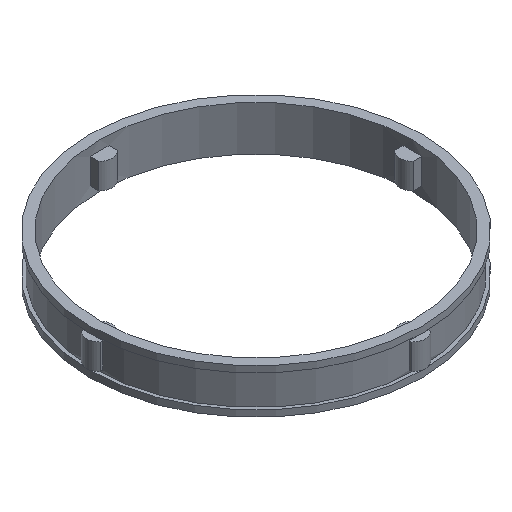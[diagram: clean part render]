
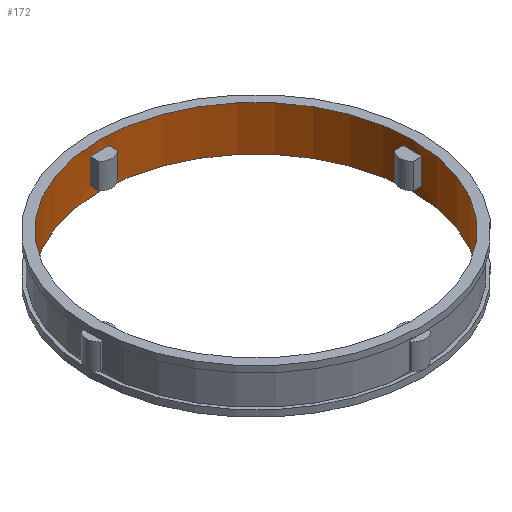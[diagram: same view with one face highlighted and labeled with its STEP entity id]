
A CAD part, isometric view. The second image highlights one B-rep face of the part: STEP entity #172.
In plain terms, the highlighted cylindrical face has radius 24.5 mm (diameter 49 mm), a full revolution.
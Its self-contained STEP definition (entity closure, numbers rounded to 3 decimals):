
#172=ADVANCED_FACE('',(#365,#366,#367,#368,#369,#370),#220,.F.);
#220=CYLINDRICAL_SURFACE('',#893,24.5);
#239=LINE('',#1247,#303);
#240=LINE('',#1251,#304);
#241=LINE('',#1255,#305);
#242=LINE('',#1259,#306);
#243=LINE('',#1263,#307);
#244=LINE('',#1267,#308);
#245=LINE('',#1268,#309);
#246=LINE('',#1273,#310);
#303=VECTOR('',#998,1.);
#304=VECTOR('',#1001,1.);
#305=VECTOR('',#1004,1.);
#306=VECTOR('',#1007,1.);
#307=VECTOR('',#1010,1.);
#308=VECTOR('',#1013,1.);
#309=VECTOR('',#1014,1.);
#310=VECTOR('',#1017,1.);
#365=FACE_BOUND('',#389,.T.);
#366=FACE_BOUND('',#390,.T.);
#367=FACE_BOUND('',#391,.T.);
#368=FACE_BOUND('',#392,.T.);
#369=FACE_BOUND('',#393,.T.);
#370=FACE_BOUND('',#394,.T.);
#389=EDGE_LOOP('',(#465));
#390=EDGE_LOOP('',(#466));
#391=EDGE_LOOP('',(#467,#468,#469,#470));
#392=EDGE_LOOP('',(#471,#472,#473,#474));
#393=EDGE_LOOP('',(#475,#476,#477,#478));
#394=EDGE_LOOP('',(#479,#480,#481,#482));
#465=ORIENTED_EDGE('',*,*,#745,.F.);
#466=ORIENTED_EDGE('',*,*,#746,.T.);
#467=ORIENTED_EDGE('',*,*,#747,.F.);
#468=ORIENTED_EDGE('',*,*,#748,.T.);
#469=ORIENTED_EDGE('',*,*,#749,.T.);
#470=ORIENTED_EDGE('',*,*,#750,.T.);
#471=ORIENTED_EDGE('',*,*,#751,.F.);
#472=ORIENTED_EDGE('',*,*,#752,.T.);
#473=ORIENTED_EDGE('',*,*,#753,.T.);
#474=ORIENTED_EDGE('',*,*,#754,.T.);
#475=ORIENTED_EDGE('',*,*,#755,.F.);
#476=ORIENTED_EDGE('',*,*,#756,.T.);
#477=ORIENTED_EDGE('',*,*,#757,.T.);
#478=ORIENTED_EDGE('',*,*,#758,.T.);
#479=ORIENTED_EDGE('',*,*,#759,.F.);
#480=ORIENTED_EDGE('',*,*,#760,.T.);
#481=ORIENTED_EDGE('',*,*,#761,.F.);
#482=ORIENTED_EDGE('',*,*,#762,.F.);
#673=VERTEX_POINT('',#1241);
#674=VERTEX_POINT('',#1243);
#675=VERTEX_POINT('',#1245);
#676=VERTEX_POINT('',#1246);
#677=VERTEX_POINT('',#1248);
#678=VERTEX_POINT('',#1250);
#679=VERTEX_POINT('',#1253);
#680=VERTEX_POINT('',#1254);
#681=VERTEX_POINT('',#1256);
#682=VERTEX_POINT('',#1258);
#683=VERTEX_POINT('',#1261);
#684=VERTEX_POINT('',#1262);
#685=VERTEX_POINT('',#1264);
#686=VERTEX_POINT('',#1266);
#687=VERTEX_POINT('',#1269);
#688=VERTEX_POINT('',#1270);
#689=VERTEX_POINT('',#1272);
#690=VERTEX_POINT('',#1274);
#745=EDGE_CURVE('',#673,#673,#841,.T.);
#746=EDGE_CURVE('',#674,#674,#842,.T.);
#747=EDGE_CURVE('',#675,#676,#843,.T.);
#748=EDGE_CURVE('',#675,#677,#239,.T.);
#749=EDGE_CURVE('',#677,#678,#844,.T.);
#750=EDGE_CURVE('',#678,#676,#240,.T.);
#751=EDGE_CURVE('',#679,#680,#845,.T.);
#752=EDGE_CURVE('',#679,#681,#241,.T.);
#753=EDGE_CURVE('',#681,#682,#846,.T.);
#754=EDGE_CURVE('',#682,#680,#242,.T.);
#755=EDGE_CURVE('',#683,#684,#847,.T.);
#756=EDGE_CURVE('',#683,#685,#243,.T.);
#757=EDGE_CURVE('',#685,#686,#848,.T.);
#758=EDGE_CURVE('',#686,#684,#244,.T.);
#759=EDGE_CURVE('',#687,#688,#245,.T.);
#760=EDGE_CURVE('',#687,#689,#849,.T.);
#761=EDGE_CURVE('',#690,#689,#246,.T.);
#762=EDGE_CURVE('',#688,#690,#850,.T.);
#841=CIRCLE('',#883,24.5);
#842=CIRCLE('',#884,24.5);
#843=CIRCLE('',#885,24.5);
#844=CIRCLE('',#886,24.5);
#845=CIRCLE('',#887,24.5);
#846=CIRCLE('',#888,24.5);
#847=CIRCLE('',#889,24.5);
#848=CIRCLE('',#890,24.5);
#849=CIRCLE('',#891,24.5);
#850=CIRCLE('',#892,24.5);
#883=AXIS2_PLACEMENT_3D('',#1240,#992,#993);
#884=AXIS2_PLACEMENT_3D('',#1242,#994,#995);
#885=AXIS2_PLACEMENT_3D('',#1244,#996,#997);
#886=AXIS2_PLACEMENT_3D('',#1249,#999,#1000);
#887=AXIS2_PLACEMENT_3D('',#1252,#1002,#1003);
#888=AXIS2_PLACEMENT_3D('',#1257,#1005,#1006);
#889=AXIS2_PLACEMENT_3D('',#1260,#1008,#1009);
#890=AXIS2_PLACEMENT_3D('',#1265,#1011,#1012);
#891=AXIS2_PLACEMENT_3D('',#1271,#1015,#1016);
#892=AXIS2_PLACEMENT_3D('',#1275,#1018,#1019);
#893=AXIS2_PLACEMENT_3D('',#1276,#1020,#1021);
#992=DIRECTION('',(0.,0.,1.));
#993=DIRECTION('',(1.,0.,0.));
#994=DIRECTION('',(0.,0.,1.));
#995=DIRECTION('',(1.,0.,0.));
#996=DIRECTION('',(0.,0.,1.));
#997=DIRECTION('',(1.,0.,0.));
#998=DIRECTION('',(0.,0.,-1.));
#999=DIRECTION('',(0.,0.,1.));
#1000=DIRECTION('',(1.,0.,0.));
#1001=DIRECTION('',(0.,0.,1.));
#1002=DIRECTION('',(0.,0.,1.));
#1003=DIRECTION('',(1.,0.,0.));
#1004=DIRECTION('',(0.,0.,-1.));
#1005=DIRECTION('',(0.,0.,1.));
#1006=DIRECTION('',(1.,0.,0.));
#1007=DIRECTION('',(0.,0.,1.));
#1008=DIRECTION('',(0.,0.,1.));
#1009=DIRECTION('',(1.,0.,0.));
#1010=DIRECTION('',(0.,0.,-1.));
#1011=DIRECTION('',(0.,0.,1.));
#1012=DIRECTION('',(1.,0.,0.));
#1013=DIRECTION('',(0.,0.,1.));
#1014=DIRECTION('',(0.,0.,-1.));
#1015=DIRECTION('',(0.,0.,-1.));
#1016=DIRECTION('',(-1.,0.,0.));
#1017=DIRECTION('',(0.,0.,1.));
#1018=DIRECTION('',(0.,0.,-1.));
#1019=DIRECTION('',(-1.,0.,0.));
#1020=DIRECTION('',(0.,0.,-1.));
#1021=DIRECTION('',(-1.,0.,0.));
#1240=CARTESIAN_POINT('',(0.,0.,0.));
#1241=CARTESIAN_POINT('',(24.5,0.,0.));
#1242=CARTESIAN_POINT('',(0.,0.,7.));
#1243=CARTESIAN_POINT('',(24.5,0.,7.));
#1244=CARTESIAN_POINT('',(0.,0.,5.5));
#1245=CARTESIAN_POINT('',(24.456,-1.471,5.5));
#1246=CARTESIAN_POINT('',(24.456,1.471,5.5));
#1247=CARTESIAN_POINT('',(24.456,-1.471,7.));
#1248=CARTESIAN_POINT('',(24.456,-1.471,1.5));
#1249=CARTESIAN_POINT('',(0.,0.,1.5));
#1250=CARTESIAN_POINT('',(24.456,1.471,1.5));
#1251=CARTESIAN_POINT('',(24.456,1.471,7.));
#1252=CARTESIAN_POINT('',(0.,0.,5.5));
#1253=CARTESIAN_POINT('',(1.471,24.456,5.5));
#1254=CARTESIAN_POINT('',(-1.471,24.456,5.5));
#1255=CARTESIAN_POINT('',(1.471,24.456,7.));
#1256=CARTESIAN_POINT('',(1.471,24.456,1.5));
#1257=CARTESIAN_POINT('',(0.,0.,1.5));
#1258=CARTESIAN_POINT('',(-1.471,24.456,1.5));
#1259=CARTESIAN_POINT('',(-1.471,24.456,7.));
#1260=CARTESIAN_POINT('',(0.,0.,5.5));
#1261=CARTESIAN_POINT('',(-24.456,1.471,5.5));
#1262=CARTESIAN_POINT('',(-24.456,-1.471,5.5));
#1263=CARTESIAN_POINT('',(-24.456,1.471,7.));
#1264=CARTESIAN_POINT('',(-24.456,1.471,1.5));
#1265=CARTESIAN_POINT('',(0.,0.,1.5));
#1266=CARTESIAN_POINT('',(-24.456,-1.471,1.5));
#1267=CARTESIAN_POINT('',(-24.456,-1.471,7.));
#1268=CARTESIAN_POINT('',(1.471,-24.456,7.));
#1269=CARTESIAN_POINT('',(1.471,-24.456,5.5));
#1270=CARTESIAN_POINT('',(1.471,-24.456,1.5));
#1271=CARTESIAN_POINT('',(0.,0.,5.5));
#1272=CARTESIAN_POINT('',(-1.471,-24.456,5.5));
#1273=CARTESIAN_POINT('',(-1.471,-24.456,7.));
#1274=CARTESIAN_POINT('',(-1.471,-24.456,1.5));
#1275=CARTESIAN_POINT('',(0.,0.,1.5));
#1276=CARTESIAN_POINT('',(0.,0.,7.));
